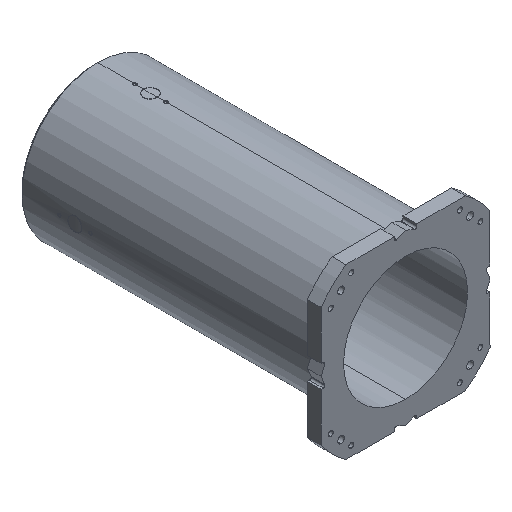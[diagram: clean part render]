
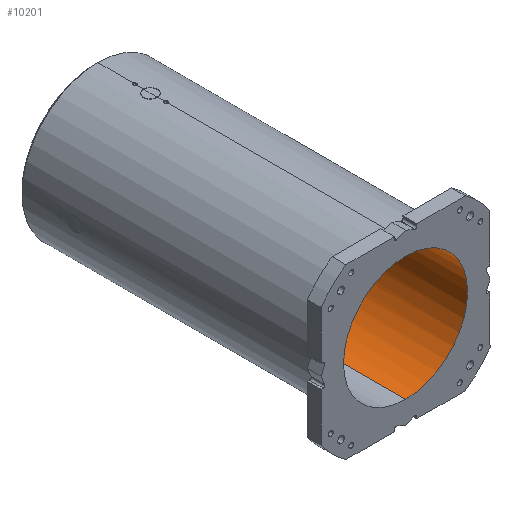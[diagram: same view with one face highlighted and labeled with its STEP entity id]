
A CAD part, isometric view. The second image highlights one B-rep face of the part: STEP entity #10201.
In plain terms, the highlighted cylindrical face has radius 180 mm (diameter 360 mm), a partial arc.
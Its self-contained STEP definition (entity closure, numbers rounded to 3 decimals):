
#282 = ORIENTED_EDGE ( 'NONE', *, *, #9618, .T. ) ;
#426 = DIRECTION ( 'NONE',  ( 0., 1., 0. ) ) ;
#428 = CARTESIAN_POINT ( 'NONE',  ( 131.304, 863., 123.123 ) ) ;
#485 = CARTESIAN_POINT ( 'NONE',  ( 0., 0., -180. ) ) ;
#584 = CYLINDRICAL_SURFACE ( 'NONE', #5244, 180. ) ;
#859 = VERTEX_POINT ( 'NONE', #6344 ) ;
#978 = VERTEX_POINT ( 'NONE', #5115 ) ;
#1251 = CARTESIAN_POINT ( 'NONE',  ( 0., 863., 0. ) ) ;
#1395 = DIRECTION ( 'NONE',  ( 0., 0., 1. ) ) ;
#1613 = DIRECTION ( 'NONE',  ( 0., 0., 1. ) ) ;
#1624 = CARTESIAN_POINT ( 'NONE',  ( 123.123, 863., 131.304 ) ) ;
#1940 = EDGE_CURVE ( 'NONE', #5741, #7396, #2294, .T. ) ;
#1995 = EDGE_CURVE ( 'NONE', #9599, #978, #8483, .T. ) ;
#2017 = VERTEX_POINT ( 'NONE', #4084 ) ;
#2105 = AXIS2_PLACEMENT_3D ( 'NONE', #11296, #5203, #1395 ) ;
#2152 = ORIENTED_EDGE ( 'NONE', *, *, #1940, .T. ) ;
#2228 = DIRECTION ( 'NONE',  ( 0., 0., 1. ) ) ;
#2294 = CIRCLE ( 'NONE', #8423, 180. ) ;
#2386 = CARTESIAN_POINT ( 'NONE',  ( 0., 863., 0. ) ) ;
#2417 = DIRECTION ( 'NONE',  ( 0., 0., 1. ) ) ;
#2509 = DIRECTION ( 'NONE',  ( 0., 1., 0. ) ) ;
#2661 = DIRECTION ( 'NONE',  ( 0., 0., 1. ) ) ;
#3009 = CIRCLE ( 'NONE', #7468, 180. ) ;
#3281 = CARTESIAN_POINT ( 'NONE',  ( 0., 0., -180. ) ) ;
#3430 = EDGE_CURVE ( 'NONE', #8183, #859, #10835, .T. ) ;
#3984 = DIRECTION ( 'NONE',  ( 0., 1., 0. ) ) ;
#4084 = CARTESIAN_POINT ( 'NONE',  ( 0., 0., 180. ) ) ;
#4102 = ORIENTED_EDGE ( 'NONE', *, *, #7313, .F. ) ;
#4190 = DIRECTION ( 'NONE',  ( 0., 1., 0. ) ) ;
#4709 = DIRECTION ( 'NONE',  ( 0., 1., 0. ) ) ;
#4868 = LINE ( 'NONE', #8417, #10639 ) ;
#4896 = CIRCLE ( 'NONE', #11377, 180. ) ;
#4906 = AXIS2_PLACEMENT_3D ( 'NONE', #11295, #8520, #2228 ) ;
#5115 = CARTESIAN_POINT ( 'NONE',  ( 0., 863., -180. ) ) ;
#5203 = DIRECTION ( 'NONE',  ( 0., 1., 0. ) ) ;
#5244 = AXIS2_PLACEMENT_3D ( 'NONE', #10377, #4190, #2417 ) ;
#5393 = EDGE_CURVE ( 'NONE', #7396, #8183, #8143, .T. ) ;
#5741 = VERTEX_POINT ( 'NONE', #11131 ) ;
#5855 = FACE_OUTER_BOUND ( 'NONE', #10231, .T. ) ;
#6344 = CARTESIAN_POINT ( 'NONE',  ( 131.304, 863., -123.123 ) ) ;
#6864 = EDGE_CURVE ( 'NONE', #2017, #5741, #4868, .T. ) ;
#7033 = ORIENTED_EDGE ( 'NONE', *, *, #3430, .T. ) ;
#7058 = EDGE_CURVE ( 'NONE', #859, #10299, #4896, .T. ) ;
#7313 = EDGE_CURVE ( 'NONE', #2017, #9599, #8428, .T. ) ;
#7396 = VERTEX_POINT ( 'NONE', #1624 ) ;
#7468 = AXIS2_PLACEMENT_3D ( 'NONE', #10363, #9609, #1613 ) ;
#7631 = ORIENTED_EDGE ( 'NONE', *, *, #6864, .T. ) ;
#8143 = CIRCLE ( 'NONE', #9068, 180. ) ;
#8183 = VERTEX_POINT ( 'NONE', #428 ) ;
#8417 = CARTESIAN_POINT ( 'NONE',  ( 0., 0., 180. ) ) ;
#8423 = AXIS2_PLACEMENT_3D ( 'NONE', #2386, #2509, #9539 ) ;
#8428 = CIRCLE ( 'NONE', #4906, 180. ) ;
#8483 = LINE ( 'NONE', #485, #9916 ) ;
#8520 = DIRECTION ( 'NONE',  ( 0., 1., 0. ) ) ;
#9068 = AXIS2_PLACEMENT_3D ( 'NONE', #1251, #3984, #10348 ) ;
#9539 = DIRECTION ( 'NONE',  ( 0., 0., 1. ) ) ;
#9599 = VERTEX_POINT ( 'NONE', #3281 ) ;
#9609 = DIRECTION ( 'NONE',  ( 0., 1., 0. ) ) ;
#9618 = EDGE_CURVE ( 'NONE', #10299, #978, #3009, .T. ) ;
#9916 = VECTOR ( 'NONE', #4709, 1000. ) ;
#9923 = CARTESIAN_POINT ( 'NONE',  ( 0., 863., 0. ) ) ;
#10201 = ADVANCED_FACE ( 'NONE', ( #5855 ), #584, .F. ) ;
#10217 = ORIENTED_EDGE ( 'NONE', *, *, #7058, .T. ) ;
#10231 = EDGE_LOOP ( 'NONE', ( #11330, #4102, #7631, #2152, #10423, #7033, #10217, #282 ) ) ;
#10299 = VERTEX_POINT ( 'NONE', #11185 ) ;
#10348 = DIRECTION ( 'NONE',  ( 0., 0., 1. ) ) ;
#10363 = CARTESIAN_POINT ( 'NONE',  ( 0., 863., 0. ) ) ;
#10377 = CARTESIAN_POINT ( 'NONE',  ( 0., 0., 0. ) ) ;
#10423 = ORIENTED_EDGE ( 'NONE', *, *, #5393, .T. ) ;
#10639 = VECTOR ( 'NONE', #426, 1000. ) ;
#10673 = DIRECTION ( 'NONE',  ( 0., 1., 0. ) ) ;
#10835 = CIRCLE ( 'NONE', #2105, 180. ) ;
#11131 = CARTESIAN_POINT ( 'NONE',  ( 0., 863., 180. ) ) ;
#11185 = CARTESIAN_POINT ( 'NONE',  ( 123.123, 863., -131.304 ) ) ;
#11295 = CARTESIAN_POINT ( 'NONE',  ( 0., 0., 0. ) ) ;
#11296 = CARTESIAN_POINT ( 'NONE',  ( 0., 863., 0. ) ) ;
#11330 = ORIENTED_EDGE ( 'NONE', *, *, #1995, .F. ) ;
#11377 = AXIS2_PLACEMENT_3D ( 'NONE', #9923, #10673, #2661 ) ;
